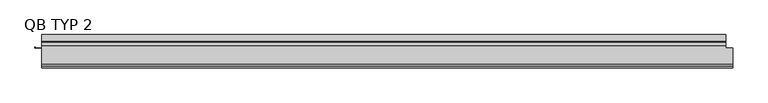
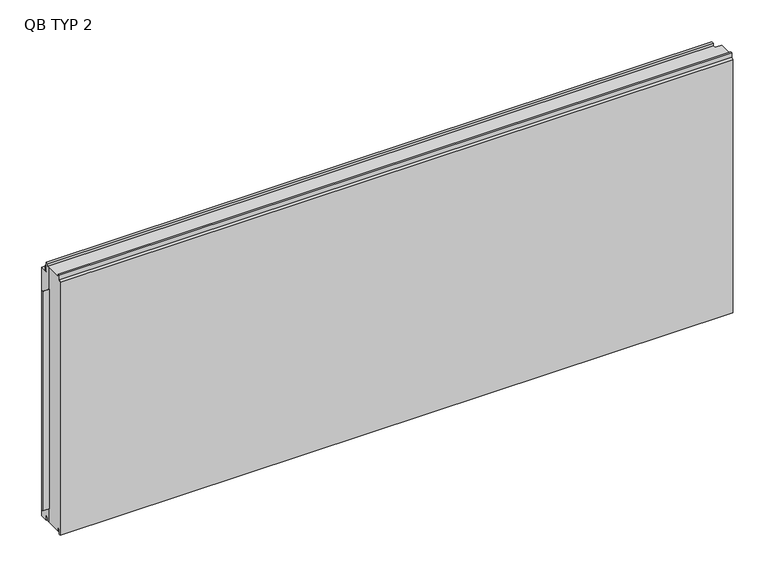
"""IFC4 building model written with IfcOpenShell, lengths in millimetres: plate geometry, TR_C_H_QBISS_Panel : QB TYP 2."""

from ifc_helpers import new_model, si_unit, frame, origin, place, context, project, spatial, polyline, outline, extrude, faceted_brep, source, transform, mapped, element, save


def qb_typ_2_98d51a64(model_context):
    return source(origin(), model_context, "Body", "SolidModel", [
        extrude(outline(polyline([(-1262.5, -49.0), (-1262.5, -44.0), (-1261.7, -44.0), (-1261.7, -48.2), (-1237.3, -48.2), (-1237.3, -49.0), (-1262.5, -49.0)])), frame((0.0, 0.0, 54.0), z_axis=(0.0, 0.0, 1.0), x_axis=(1.0, 0.0, 0.0)), (0.0, 0.0, 1.0), 862.0),
        faceted_brep([(1262.4, -108.0, 1000.0), (1262.4, -108.0, 1010.0), (1262.4, -114.0, 1010.0), (1262.4, -114.0, 992.0), (1262.4, -120.0, 986.0), (1262.4, -120.0, -8.0), (1262.4, -114.0, -8.0), (1262.4, -114.0, 13.0), (1262.4, -108.0, 13.0), (1262.4, -108.0, 0.0), (1262.4, -49.0, 0.0), (1262.4, -49.0, 1000.0), (-1237.5, -108.0, 0.0), (-1237.5, -108.0, 13.0), (-1237.5, -114.0, 13.0), (-1237.5, -114.0, -8.0), (-1237.5, -120.0, -8.0), (-1237.5, -120.0, 986.0), (-1237.5, -114.0, 992.0), (-1237.5, -114.0, 1010.0), (-1237.5, -108.0, 1010.0), (-1237.5, -108.0, 1000.0), (-1237.5, -49.0, 1000.0), (-1237.5, -49.0, 0.0), (-1237.3, -49.0, 0.0), (-1237.3, -39.0, 0.0), (1237.3, -39.0, 0.0), (1237.3, -49.0, 0.0), (-1237.3, -39.0, 13.0), (1237.3, -39.0, 13.0), (-1237.3, -29.0, 13.0), (1237.3, -29.0, 13.0), (-1237.3, -29.0, -4.0), (1237.3, -29.0, -4.0), (-1237.3, 0.0, -4.0), (1237.3, 0.0, -4.0), (-1237.3, 0.0, 973.0), (1237.3, 0.0, 973.0), (-1237.3, -29.0, 973.0), (1237.3, -29.0, 973.0), (-1237.3, -29.0, 1010.0), (1237.3, -29.0, 1010.0), (-1237.3, -39.0, 1010.0), (1237.3, -39.0, 1010.0), (-1237.3, -39.0, 1000.0), (1237.3, -39.0, 1000.0), (1237.3, -49.0, 1000.0), (-1237.3, -49.0, 1000.0)], [[[0, 1, 2, 3, 4, 5, 6, 7, 8, 9, 10, 11]], [[12, 13, 14, 15, 16, 17, 18, 19, 20, 21, 22, 23]], [[9, 12, 23, 24, 25, 26, 27, 10]], [[26, 25, 28, 29]], [[29, 28, 30, 31]], [[31, 30, 32, 33]], [[33, 32, 34, 35]], [[35, 34, 36, 37]], [[37, 36, 38, 39]], [[39, 38, 40, 41]], [[41, 40, 42, 43]], [[43, 42, 44, 45]], [[21, 0, 11, 46, 45, 44, 47, 22]], [[1, 0, 21, 20]], [[2, 1, 20, 19]], [[3, 2, 19, 18]], [[4, 3, 18, 17]], [[5, 4, 17, 16]], [[6, 5, 16, 15]], [[7, 6, 15, 14]], [[8, 7, 14, 13]], [[9, 8, 13, 12]], [[47, 24, 23, 22]], [[24, 47, 44, 42, 40, 38, 36, 34, 32, 30, 28, 25]], [[46, 27, 26, 29, 31, 33, 35, 37, 39, 41, 43, 45]], [[27, 46, 11, 10]]]),
        extrude(outline(polyline([(-24.0, 994.5), (-24.0, 974.5), (-25.4998317, 974.5), (-25.4998317, 981.3023028), (-27.9998293, 981.3023028), (-27.9998293, 980.5023028), (-28.7998428, 980.5023028), (-28.7998428, 988.5023593), (-27.9998293, 988.5023593), (-27.9998293, 987.7023593), (-25.4998317, 987.7023593), (-25.4998317, 994.5), (-24.0, 994.5)])), frame((-1237.3, 0.0, 0.0), z_axis=(1.0, 0.0, 0.0), x_axis=(0.0, 1.0, 0.0)), (0.0, 0.0, 1.0), 2474.6),
    ])


if __name__ == "__main__":
    model = new_model("IFC4")
    model_context = context("Model", 3, world=origin())
    ifc_project = project(units=[si_unit("LENGTHUNIT", "METRE", prefix="MILLI")], contexts=[model_context])
    site = spatial("IfcSite", under=ifc_project)
    building = spatial("IfcBuilding", under=site)
    placement = place(None, origin())
    qb_typ_2_shape = qb_typ_2_98d51a64(model_context)
    element("IfcPlate", 1, ObjectType="TR_C_H_QBISS_Panel : QB TYP 2", at=placement, inside=building, context=model_context, shape_type="MappedRepresentation", body=[
        mapped(qb_typ_2_shape, transform((0.0, 0.0, 0.0), x_axis=(1.0, 0.0, 0.0), y_axis=(0.0, 1.0, 0.0), z_axis=(0.0, 0.0, 1.0))),
    ])
    save(model, "model.ifc")
